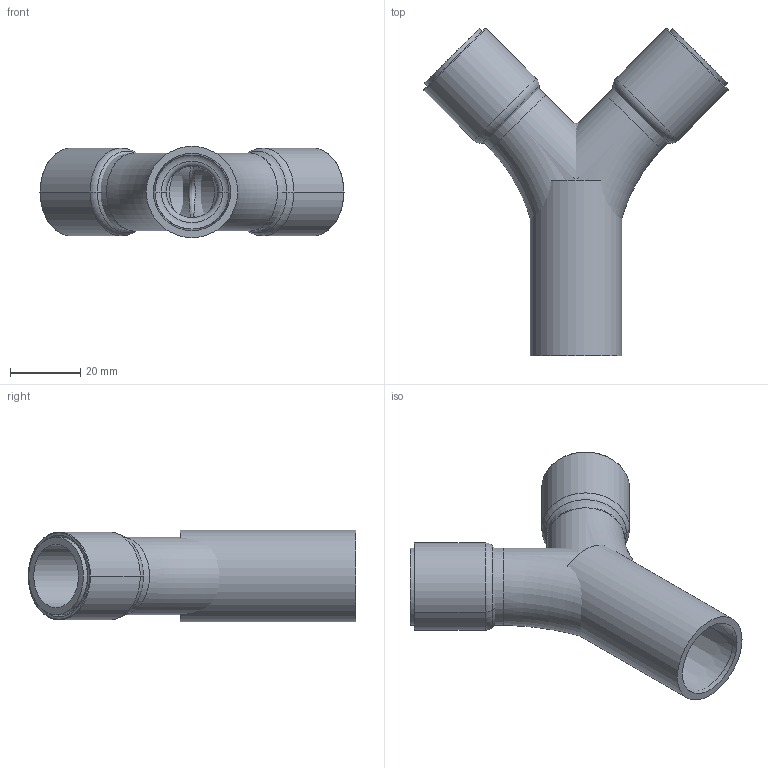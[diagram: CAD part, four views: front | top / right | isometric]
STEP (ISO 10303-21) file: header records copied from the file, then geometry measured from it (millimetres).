
FILE_DESCRIPTION(/* description */ (''),/* implementation_level */ '2;1');
FILE_NAME(/* name */ 'ISO 5356 Splitter M25 F22_GgCV19.stp',/* time_stamp */ '2020-03-27T17:17:36+01:00',/* author */ (''),/* organization */ (''),/* preprocessor_version */ 'ST-DEVELOPER v16.7',/* originating_system */ 'SIEMENS PLM Software NX 12.0',/* authorisation */ '');
FILE_SCHEMA (('AUTOMOTIVE_DESIGN { 1 0 10303 214 3 1 1 1 }'));
Length unit declared in the file: millimetre
Products named in the file (1): ISO5356 - TGgCV19_Splitter_22F_ok
Bounding box: 86.6 x 93.3 x 26 mm (x, y, z)
Volume: 42714.3 mm3; surface area: 40045.2 mm2
Topology: 4 solids, 4 shells, 212 faces, 495 edges, 310 vertices
Faces by surface type: plane 103, torus 36, extrusion 29, cylinder 18, cone 18, bspline 8
Full cylindrical faces by diameter (mm): 18 x2, 22 x3, 26 x1
Entity records: 8330 total; most frequent: CARTESIAN_POINT 3891, ORIENTED_EDGE 952, DIRECTION 757, EDGE_CURVE 476, VERTEX_POINT 306, AXIS2_PLACEMENT_3D 298, EDGE_LOOP 256, B_SPLINE_CURVE_WITH_KNOTS 251
